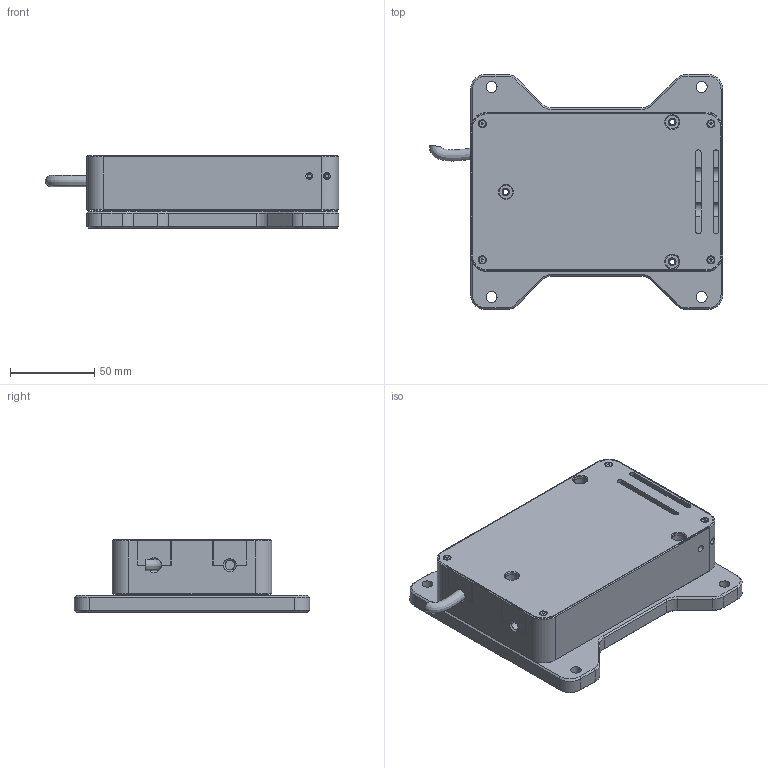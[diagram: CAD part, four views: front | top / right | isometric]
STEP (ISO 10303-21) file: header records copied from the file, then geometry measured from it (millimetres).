
FILE_DESCRIPTION(/* description */ (''),/* implementation_level */ '2;1');
FILE_NAME(/* name */ 'S:\Marketing Vertrieb\00_PRODUKTE\SP-DI\07_Maßskizzen\SP_5000_DI.stp',/* time_stamp */ '2020-10-26T06:24:32+01:00',/* author */ ('IlkoRahneberg'),/* organization */ (''),/* preprocessor_version */ 'ST-DEVELOPER v18',/* originating_system */ 'Autodesk Inventor 2020',/* authorisation */ '');
FILE_SCHEMA (('AUTOMOTIVE_DESIGN { 1 0 10303 214 3 1 1 }'));
Length unit declared in the file: millimetre
Products named in the file (1): SP-DI_Ext.justierbares-Drehkeilpaar_Substitute_2
Bounding box: 174.56 x 140 x 43 mm (x, y, z)
Volume: 380727.9 mm3; surface area: 138795.7 mm2
Topology: 12 solids, 12 shells, 501 faces, 1372 edges, 919 vertices
Faces by surface type: plane 236, cylinder 189, cone 75, bspline 1
Full cylindrical faces by diameter (mm): 1.567 x8, 1.8 x2, 2 x4, 2.4 x12, 2.459 x17, 3.242 x3, 3.4 x4, 3.5 x2, 4 x14, 4.4 x8, 4.5 x5, 6.5 x8, 8 x13, 9 x2
Entity records: 16921 total; most frequent: CARTESIAN_POINT 3518, DIRECTION 2865, ORIENTED_EDGE 2712, EDGE_CURVE 1356, AXIS2_PLACEMENT_3D 1056, VERTEX_POINT 919, LINE 753, VECTOR 753
